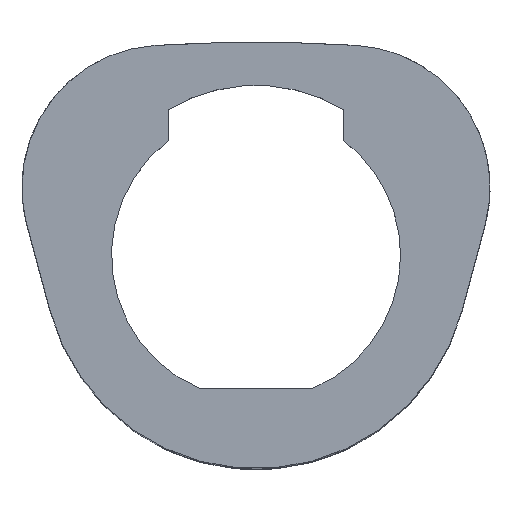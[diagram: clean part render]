
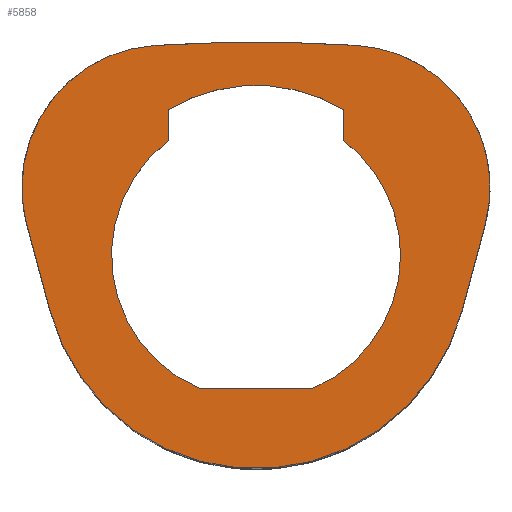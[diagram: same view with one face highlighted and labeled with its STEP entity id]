
A CAD part, top view. The second image highlights one B-rep face of the part: STEP entity #5858.
In plain terms, the highlighted planar face has unit normal (0, 0, 1).
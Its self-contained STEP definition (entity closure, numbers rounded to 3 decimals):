
#5728=CARTESIAN_POINT('',(0.,0.,25.3));
#5729=DIRECTION('',(0.,0.,1.));
#5730=DIRECTION('',(1.,0.,0.));
#5731=AXIS2_PLACEMENT_3D('',#5728,#5729,#5730);
#5732=PLANE('',#5731);
#5733=CARTESIAN_POINT('',(-2.4,-5.608,25.3));
#5734=VERTEX_POINT('',#5733);
#5735=CARTESIAN_POINT('',(-3.7,4.85,25.3));
#5736=VERTEX_POINT('',#5735);
#5737=CARTESIAN_POINT('',(0.,0.,25.3));
#5738=DIRECTION('',(-0.,0.,-1.));
#5739=DIRECTION('',(-0.393,-0.919,0.));
#5740=AXIS2_PLACEMENT_3D('',#5737,#5738,#5739);
#5741=CIRCLE('',#5740,6.1);
#5742=EDGE_CURVE('',#5734,#5736,#5741,.T.);
#5743=ORIENTED_EDGE('',*,*,#5742,.T.);
#5744=CARTESIAN_POINT('',(-3.7,6.147,25.3));
#5745=VERTEX_POINT('',#5744);
#5746=CARTESIAN_POINT('',(-3.7,4.85,25.3));
#5747=DIRECTION('',(-0.,1.,0.));
#5748=VECTOR('',#5747,1.298);
#5749=LINE('',#5746,#5748);
#5750=EDGE_CURVE('',#5736,#5745,#5749,.T.);
#5751=ORIENTED_EDGE('',*,*,#5750,.T.);
#5752=CARTESIAN_POINT('',(3.7,6.147,25.3));
#5753=VERTEX_POINT('',#5752);
#5754=CARTESIAN_POINT('',(0.,0.,25.3));
#5755=DIRECTION('',(0.,0.,-1.));
#5756=DIRECTION('',(-0.516,0.857,0.));
#5757=AXIS2_PLACEMENT_3D('',#5754,#5755,#5756);
#5758=CIRCLE('',#5757,7.175);
#5759=EDGE_CURVE('',#5745,#5753,#5758,.T.);
#5760=ORIENTED_EDGE('',*,*,#5759,.T.);
#5761=CARTESIAN_POINT('',(3.7,4.85,25.3));
#5762=VERTEX_POINT('',#5761);
#5763=CARTESIAN_POINT('',(3.7,6.147,25.3));
#5764=DIRECTION('',(0.,-1.,0.));
#5765=VECTOR('',#5764,1.298);
#5766=LINE('',#5763,#5765);
#5767=EDGE_CURVE('',#5753,#5762,#5766,.T.);
#5768=ORIENTED_EDGE('',*,*,#5767,.T.);
#5769=CARTESIAN_POINT('',(6.1,0.,25.3));
#5770=VERTEX_POINT('',#5769);
#5771=CARTESIAN_POINT('',(0.,0.,25.3));
#5772=DIRECTION('',(0.,0.,-1.));
#5773=DIRECTION('',(0.607,0.795,0.));
#5774=AXIS2_PLACEMENT_3D('',#5771,#5772,#5773);
#5775=CIRCLE('',#5774,6.1);
#5776=EDGE_CURVE('',#5762,#5770,#5775,.T.);
#5777=ORIENTED_EDGE('',*,*,#5776,.T.);
#5778=CARTESIAN_POINT('',(2.4,-5.608,25.3));
#5779=VERTEX_POINT('',#5778);
#5780=CARTESIAN_POINT('',(0.,0.,25.3));
#5781=DIRECTION('',(0.,0.,-1.));
#5782=DIRECTION('',(0.607,0.795,0.));
#5783=AXIS2_PLACEMENT_3D('',#5780,#5781,#5782);
#5784=CIRCLE('',#5783,6.1);
#5785=EDGE_CURVE('',#5770,#5779,#5784,.T.);
#5786=ORIENTED_EDGE('',*,*,#5785,.T.);
#5787=CARTESIAN_POINT('',(2.4,-5.608,25.3));
#5788=DIRECTION('',(-1.,0.,0.));
#5789=VECTOR('',#5788,4.8);
#5790=LINE('',#5787,#5789);
#5791=EDGE_CURVE('',#5779,#5734,#5790,.T.);
#5792=ORIENTED_EDGE('',*,*,#5791,.T.);
#5793=EDGE_LOOP('',(#5743,#5751,#5760,#5768,#5777,#5786,#5792));
#5794=FACE_BOUND('',#5793,.T.);
#5795=CARTESIAN_POINT('',(-8.693,-2.329,25.3));
#5796=VERTEX_POINT('',#5795);
#5797=CARTESIAN_POINT('',(8.693,-2.329,25.3));
#5798=VERTEX_POINT('',#5797);
#5799=CARTESIAN_POINT('',(0.,0.,25.3));
#5800=DIRECTION('',(0.,0.,1.));
#5801=DIRECTION('',(-0.966,-0.259,0.));
#5802=AXIS2_PLACEMENT_3D('',#5799,#5800,#5801);
#5803=CIRCLE('',#5802,9.);
#5804=EDGE_CURVE('',#5796,#5798,#5803,.T.);
#5805=ORIENTED_EDGE('',*,*,#5804,.T.);
#5806=CARTESIAN_POINT('',(9.672,1.322,25.3));
#5807=VERTEX_POINT('',#5806);
#5808=CARTESIAN_POINT('',(9.672,1.322,25.3));
#5809=DIRECTION('',(-0.259,-0.966,0.));
#5810=VECTOR('',#5809,3.78);
#5811=LINE('',#5808,#5810);
#5812=EDGE_CURVE('',#5807,#5798,#5811,.T.);
#5813=ORIENTED_EDGE('',*,*,#5812,.F.);
#5814=CARTESIAN_POINT('',(4.263,8.863,25.3));
#5815=VERTEX_POINT('',#5814);
#5816=CARTESIAN_POINT('',(3.876,2.875,25.3));
#5817=DIRECTION('',(0.,0.,-1.));
#5818=DIRECTION('',(0.064,0.998,0.));
#5819=AXIS2_PLACEMENT_3D('',#5816,#5817,#5818);
#5820=CIRCLE('',#5819,6.);
#5821=EDGE_CURVE('',#5815,#5807,#5820,.T.);
#5822=ORIENTED_EDGE('',*,*,#5821,.F.);
#5823=CARTESIAN_POINT('',(-4.263,8.863,25.3));
#5824=VERTEX_POINT('',#5823);
#5825=CARTESIAN_POINT('',(0.,-57.178,25.3));
#5826=DIRECTION('',(0.,0.,-1.));
#5827=DIRECTION('',(-0.064,0.998,0.));
#5828=AXIS2_PLACEMENT_3D('',#5825,#5826,#5827);
#5829=CIRCLE('',#5828,66.178);
#5830=EDGE_CURVE('',#5824,#5815,#5829,.T.);
#5831=ORIENTED_EDGE('',*,*,#5830,.F.);
#5832=CARTESIAN_POINT('',(-9.876,2.875,25.3));
#5833=VERTEX_POINT('',#5832);
#5834=CARTESIAN_POINT('',(-3.876,2.875,25.3));
#5835=DIRECTION('',(-0.,0.,-1.));
#5836=DIRECTION('',(-0.966,-0.259,0.));
#5837=AXIS2_PLACEMENT_3D('',#5834,#5835,#5836);
#5838=CIRCLE('',#5837,6.);
#5839=EDGE_CURVE('',#5833,#5824,#5838,.T.);
#5840=ORIENTED_EDGE('',*,*,#5839,.F.);
#5841=CARTESIAN_POINT('',(-9.672,1.322,25.3));
#5842=VERTEX_POINT('',#5841);
#5843=CARTESIAN_POINT('',(-3.876,2.875,25.3));
#5844=DIRECTION('',(-0.,0.,-1.));
#5845=DIRECTION('',(-0.966,-0.259,0.));
#5846=AXIS2_PLACEMENT_3D('',#5843,#5844,#5845);
#5847=CIRCLE('',#5846,6.);
#5848=EDGE_CURVE('',#5842,#5833,#5847,.T.);
#5849=ORIENTED_EDGE('',*,*,#5848,.F.);
#5850=CARTESIAN_POINT('',(-9.672,1.322,25.3));
#5851=DIRECTION('',(0.259,-0.966,0.));
#5852=VECTOR('',#5851,3.78);
#5853=LINE('',#5850,#5852);
#5854=EDGE_CURVE('',#5842,#5796,#5853,.T.);
#5855=ORIENTED_EDGE('',*,*,#5854,.T.);
#5856=EDGE_LOOP('',(#5805,#5813,#5822,#5831,#5840,#5849,#5855));
#5857=FACE_BOUND('',#5856,.T.);
#5858=ADVANCED_FACE('',(#5794,#5857),#5732,.T.);
